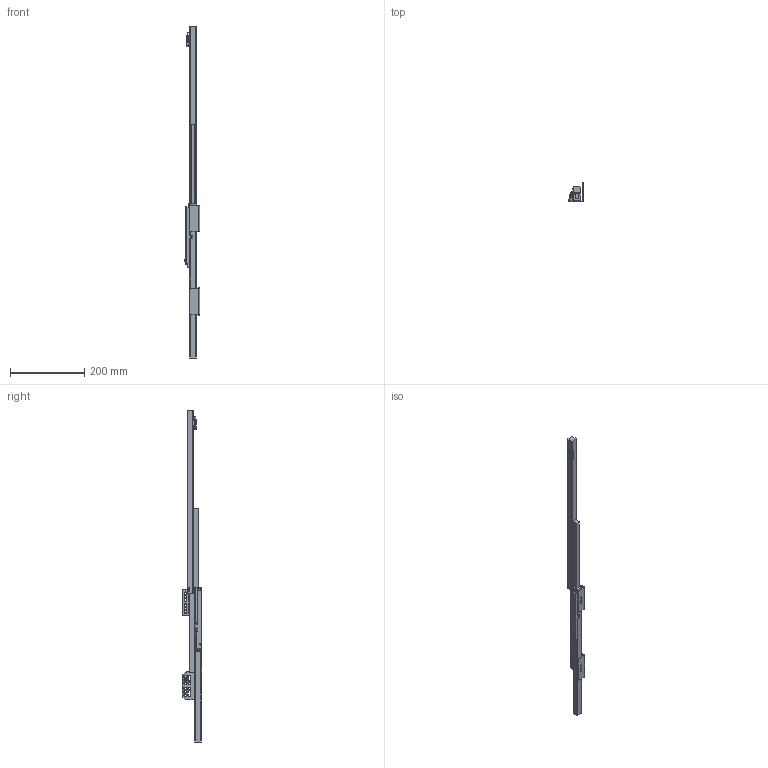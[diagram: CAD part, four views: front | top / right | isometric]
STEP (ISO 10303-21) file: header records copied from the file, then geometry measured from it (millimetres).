
FILE_DESCRIPTION (( 'STEP AP203' ), '1' );
FILE_NAME ('HB015504GX-R(打开).STEP', '2025-05-13T06:34:21', ( '微软用户' ), ( '微软中国' ), 'SwSTEP 2.0', 'SolidWorks 2021', '' );
FILE_SCHEMA (( 'CONFIG_CONTROL_DESIGN' ));
Length unit declared in the file: millimetre
Products named in the file (4): HB015504GX-R(湖羲); M覃誹儂凳R; 瑰貌寢OFH01-GG-GB.STEP; HB415504H-1-R(湖羲)
Assembly tree (3 placements, depth 2):
  HB015504GX-R(湖羲)
    HB415504H-1-R(湖羲)
    瑰貌寢OFH01-GG-GB.STEP
    M覃誹儂凳R
Bounding box: 40.83 x 53 x 893 mm (x, y, z)
Volume: 370253 mm3; surface area: 101615.7 mm2
Topology: 3 solids, 30 shells, 1572 faces, 4167 edges, 2632 vertices
Faces by surface type: cylinder 536, plane 528, bspline 280, torus 175, cone 44, sphere 9
Entity records: 86810 total; most frequent: CARTESIAN_POINT 49595, ORIENTED_EDGE 8264, DIRECTION 7017, EDGE_CURVE 4132, VERTEX_POINT 2630, AXIS2_PLACEMENT_3D 2540, VECTOR 1937, LINE 1937
